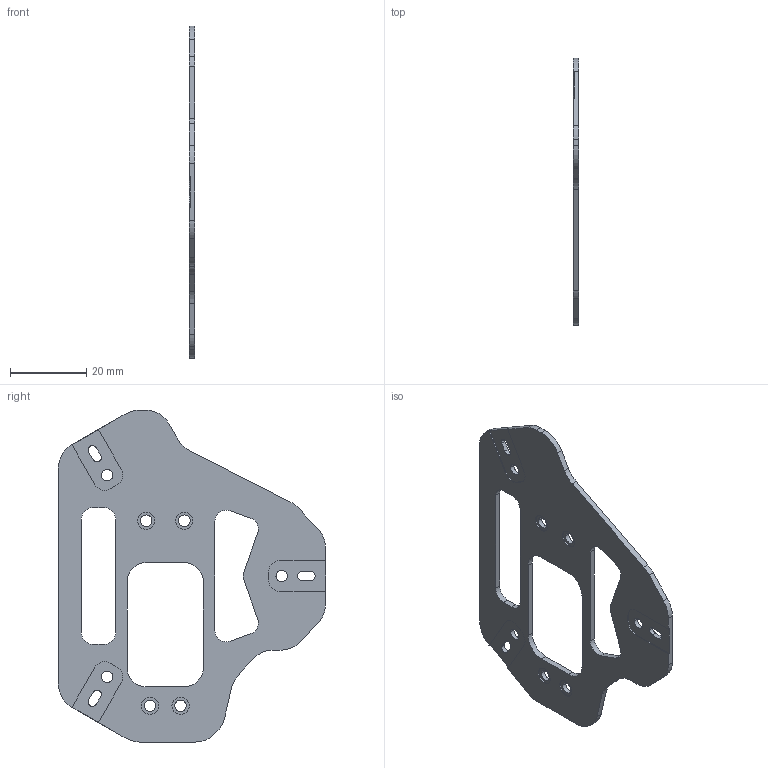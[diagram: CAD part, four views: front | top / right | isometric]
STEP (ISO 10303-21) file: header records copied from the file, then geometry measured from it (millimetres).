
FILE_DESCRIPTION (( 'STEP AP203' ), '1' );
FILE_NAME ('PEN-M.STEP', '2025-01-21T11:50:22', ( '' ), ( '' ), 'SwSTEP 2.0', 'SolidWorks 2024', '' );
FILE_SCHEMA (( 'CONFIG_CONTROL_DESIGN' ));
Length unit declared in the file: millimetre
Products named in the file (1): PEN-M
Bounding box: 1.5 x 70 x 87 mm (x, y, z)
Volume: 4593.1 mm3; surface area: 7207.2 mm2
Topology: 1 solids, 1 shells, 118 faces, 336 edges, 224 vertices
Faces by surface type: cylinder 67, plane 51
Entity records: 4023 total; most frequent: DIRECTION 708, CARTESIAN_POINT 679, ORIENTED_EDGE 672, EDGE_CURVE 336, AXIS2_PLACEMENT_3D 253, VERTEX_POINT 224, VECTOR 202, LINE 202
